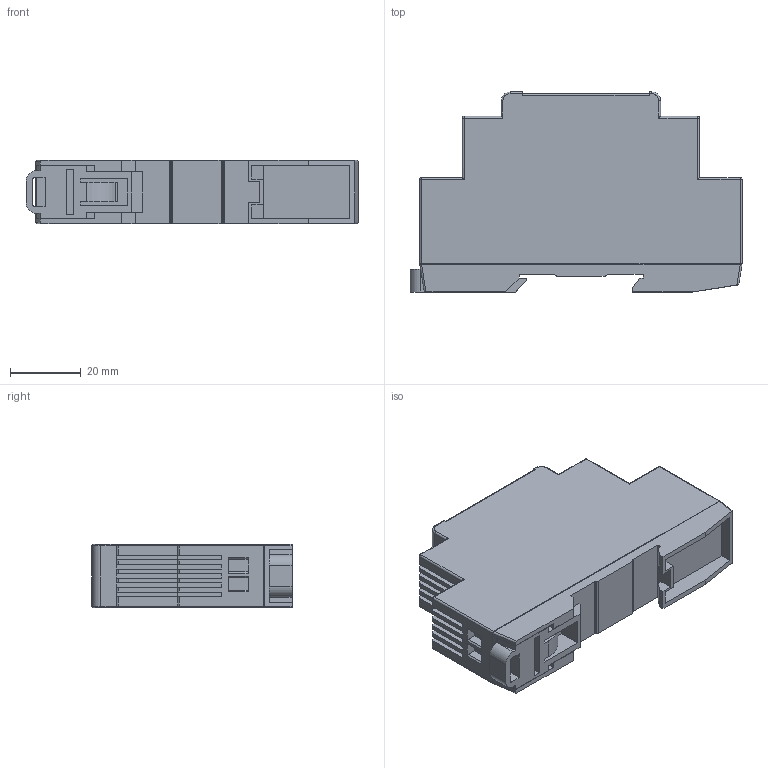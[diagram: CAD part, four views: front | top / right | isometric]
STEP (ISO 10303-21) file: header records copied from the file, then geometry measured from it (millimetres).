
FILE_DESCRIPTION (( 'STEP AP214' ), '1' );
FILE_NAME ('DDC15.STEP', '2016-03-17T12:42:34', ( '' ), ( '' ), 'SwSTEP 2.0', 'SolidWorks 2016', '' );
FILE_SCHEMA (( 'AUTOMOTIVE_DESIGN' ));
Length unit declared in the file: inch
Products named in the file (1): DDC15
Bounding box: 93.75 x 56.5 x 18 mm (x, y, z)
Volume: 72159.6 mm3; surface area: 17895 mm2
Topology: 1 solids, 1 shells, 307 faces, 839 edges, 546 vertices
Faces by surface type: plane 221, cylinder 74, bspline 10, torus 2
Entity records: 9826 total; most frequent: CARTESIAN_POINT 1993, ORIENTED_EDGE 1678, DIRECTION 1537, EDGE_CURVE 839, VECTOR 693, LINE 693, VERTEX_POINT 546, AXIS2_PLACEMENT_3D 422
